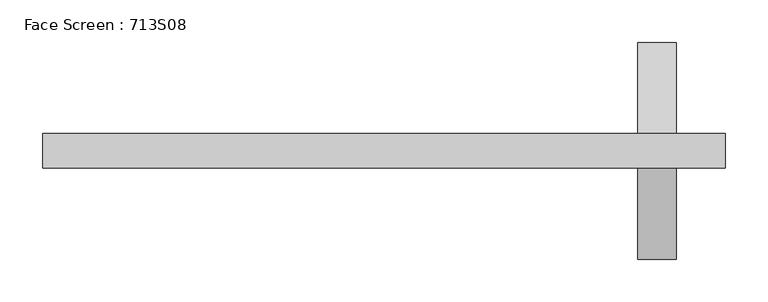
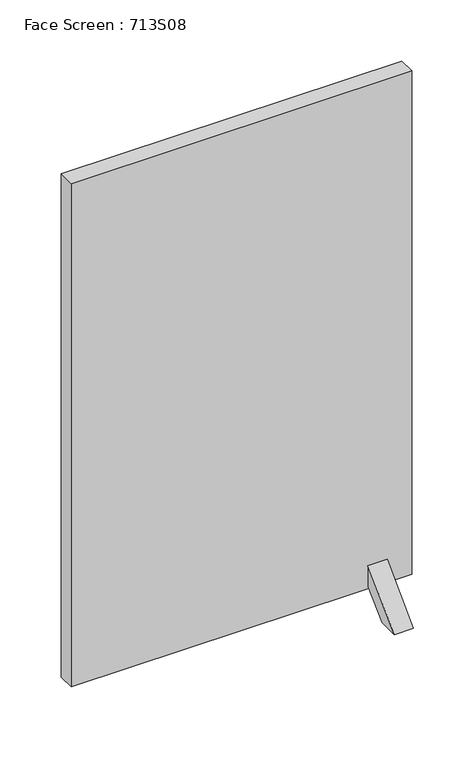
"""IFC4 building model written with IfcOpenShell, lengths in millimetres: furniture geometry, Face Screen : 713S08."""

from ifc_helpers import new_model, si_unit, frame, origin, place, context, project, spatial, polyline, outline, extrude, faceted_brep, source, transform, mapped, element, save


def face_screen_713s08_132d1581(model_context):
    return source(origin(), model_context, "Body", "SolidModel", [
        faceted_brep([(309.0, 20.0, 50.0955899), (309.0, 20.0, 57.4960966), (309.0, 37.6776695, 39.8184271), (309.0, -37.6776695, 39.8184271), (309.0, -20.0, 57.4960966), (309.0, -20.0, 50.0955899), (297.5, -126.9935713, 0.0), (342.5, -126.9935713, 0.0), (342.5, -20.0, 106.9935713), (297.5, -20.0, 106.9935713), (297.5, -77.4960966, 0.0), (342.5, -77.4960966, 0.0), (297.5, -20.0, 57.4960966), (331.0, -37.6776695, 39.8184271), (331.0, -20.0, 57.4960966), (342.5, -20.0, 57.4960966), (331.0, 20.0, 50.0955899), (331.0, -20.0, 50.0955899), (331.0, 37.6776695, 39.8184271), (331.0, 20.0, 57.4960966), (342.5, 20.0, 57.4960966), (342.5, 20.0, 106.9935713), (297.5, 20.0, 106.9935713), (297.5, 20.0, 57.4960966), (297.5, 126.9935713, 0.0), (297.5, 77.4960966, 0.0), (342.5, 77.4960966, 0.0), (342.5, 126.9935713, 0.0)], [[[0, 1, 2, 3, 4, 5]], [[6, 7, 8, 9]], [[10, 11, 7, 6]], [[12, 4, 3, 13, 14, 15, 11, 10]], [[16, 17, 14, 13, 18, 19]], [[5, 17, 16, 0]], [[4, 12, 9, 8, 15, 14, 17, 5]], [[2, 18, 13, 3]], [[0, 16, 19, 20, 21, 22, 23, 1]], [[22, 24, 25, 23]], [[9, 12, 10, 6]], [[21, 20, 26, 27]], [[8, 7, 11, 15]], [[25, 26, 20, 19, 18, 2, 1, 23]], [[24, 27, 26, 25]], [[22, 21, 27, 24]]]),
        extrude(outline(polyline([(400.0, 20.0), (400.0, -20.0), (-400.0, -20.0), (-400.0, 20.0), (400.0, 20.0)])), frame((0.0, 0.0, 50.0), z_axis=(0.0, 0.0, 1.0), x_axis=(1.0, 0.0, 0.0)), (0.0, 0.0, 1.0), 1250.0),
    ])


if __name__ == "__main__":
    model = new_model("IFC4")
    model_context = context("Model", 3, world=origin())
    ifc_project = project(units=[si_unit("LENGTHUNIT", "METRE", prefix="MILLI")], contexts=[model_context])
    site = spatial("IfcSite", under=ifc_project)
    building = spatial("IfcBuilding", under=site)
    placement = place(None, origin())
    face_screen_713s08_shape = face_screen_713s08_132d1581(model_context)
    element("IfcFurniture", 1, ObjectType="Face Screen : 713S08", at=placement, inside=building, context=model_context, shape_type="MappedRepresentation", body=[
        mapped(face_screen_713s08_shape, transform((0.0, 0.0, 0.0), x_axis=(1.0, 0.0, 0.0), y_axis=(0.0, 1.0, 0.0), z_axis=(0.0, 0.0, 1.0))),
    ])
    save(model, "model.ifc")
